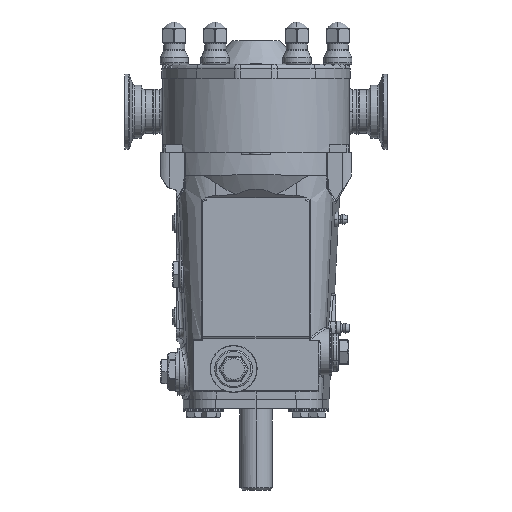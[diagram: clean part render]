
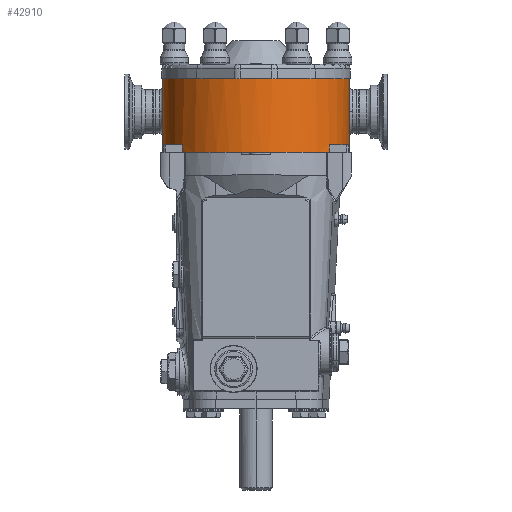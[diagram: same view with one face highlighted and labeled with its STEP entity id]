
A CAD part, front view. The second image highlights one B-rep face of the part: STEP entity #42910.
In plain terms, the highlighted cylindrical face has radius 62.992 mm (diameter 125.984 mm), a partial arc.
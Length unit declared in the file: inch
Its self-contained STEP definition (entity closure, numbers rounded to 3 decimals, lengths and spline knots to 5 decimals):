
#2 = EDGE_CURVE ( 'NONE', #19309, #41263, #8623, .T. ) ;
#88 = AXIS2_PLACEMENT_3D ( 'NONE', #10950, #47807, #16264 ) ;
#725 = CARTESIAN_POINT ( 'NONE',  ( 0., -2.563, 0.075 ) ) ;
#1500 = EDGE_CURVE ( 'NONE', #58362, #52784, #55389, .T. ) ;
#1916 = AXIS2_PLACEMENT_3D ( 'NONE', #53931, #22502, #59286 ) ;
#2109 = CARTESIAN_POINT ( 'NONE',  ( 2.45837, -2.88985, 1.83 ) ) ;
#2254 = CARTESIAN_POINT ( 'NONE',  ( -1.95756, -4.08562, 0.075 ) ) ;
#3062 = CARTESIAN_POINT ( 'NONE',  ( 0., -2.563, -0.125 ) ) ;
#3202 = VERTEX_POINT ( 'NONE', #18373 ) ;
#3344 = LINE ( 'NONE', #53747, #56016 ) ;
#3526 = CIRCLE ( 'NONE', #88, 2.48 ) ;
#4578 = DIRECTION ( 'NONE',  ( 0., 0., 1. ) ) ;
#4593 = CIRCLE ( 'NONE', #1916, 2.48 ) ;
#4833 = EDGE_CURVE ( 'NONE', #41263, #52529, #14712, .T. ) ;
#4900 = DIRECTION ( 'NONE',  ( 0., 0., 1. ) ) ;
#6966 = EDGE_CURVE ( 'NONE', #30237, #21722, #42208, .T. ) ;
#7060 = ORIENTED_EDGE ( 'NONE', *, *, #4833, .T. ) ;
#8246 = CIRCLE ( 'NONE', #11816, 2.48 ) ;
#8575 = ORIENTED_EDGE ( 'NONE', *, *, #16923, .F. ) ;
#8623 = CIRCLE ( 'NONE', #32569, 2.48 ) ;
#8834 = DIRECTION ( 'NONE',  ( 1., 0., 0. ) ) ;
#9141 = VERTEX_POINT ( 'NONE', #18849 ) ;
#9771 = CARTESIAN_POINT ( 'NONE',  ( -1.95756, -4.08562, -0.125 ) ) ;
#10065 = CARTESIAN_POINT ( 'NONE',  ( 2.48, -2.563, 1.83 ) ) ;
#10858 = DIRECTION ( 'NONE',  ( 1., 0., 0. ) ) ;
#10950 = CARTESIAN_POINT ( 'NONE',  ( 0., -2.563, 1.83 ) ) ;
#11555 = VERTEX_POINT ( 'NONE', #26834 ) ;
#11757 = CARTESIAN_POINT ( 'NONE',  ( 0., -2.563, 0.075 ) ) ;
#11816 = AXIS2_PLACEMENT_3D ( 'NONE', #48270, #16773, #53549 ) ;
#12211 = AXIS2_PLACEMENT_3D ( 'NONE', #36454, #4900, #41710 ) ;
#12489 = CIRCLE ( 'NONE', #12211, 2.48 ) ;
#12816 = CIRCLE ( 'NONE', #58685, 2.48 ) ;
#13597 = EDGE_LOOP ( 'NONE', ( #54106, #24644, #21020, #28681, #21406, #48070, #29557, #7060, #61154, #20737, #47843, #8575, #32931, #46569, #57625, #61684 ) ) ;
#14712 = LINE ( 'NONE', #34158, #39473 ) ;
#15920 = CARTESIAN_POINT ( 'NONE',  ( 2.45837, -2.88985, 0.075 ) ) ;
#16264 = DIRECTION ( 'NONE',  ( 1., 0., 0. ) ) ;
#16773 = DIRECTION ( 'NONE',  ( 0., 0., 1. ) ) ;
#16923 = EDGE_CURVE ( 'NONE', #32671, #11555, #58285, .T. ) ;
#17145 = DIRECTION ( 'NONE',  ( 1., 0., 0. ) ) ;
#17464 = DIRECTION ( 'NONE',  ( -1., 0., 0. ) ) ;
#17580 = VECTOR ( 'NONE', #26985, 39.37008 ) ;
#18006 = CARTESIAN_POINT ( 'NONE',  ( 1.95069, -4.09441, -0.125 ) ) ;
#18373 = CARTESIAN_POINT ( 'NONE',  ( -1.875, -4.1862, -0.125 ) ) ;
#18849 = CARTESIAN_POINT ( 'NONE',  ( -2.48, -2.563, 1.83 ) ) ;
#19309 = VERTEX_POINT ( 'NONE', #20866 ) ;
#19983 = VERTEX_POINT ( 'NONE', #59779 ) ;
#20737 = ORIENTED_EDGE ( 'NONE', *, *, #34668, .T. ) ;
#20866 = CARTESIAN_POINT ( 'NONE',  ( 1.875, -4.1862, -0.125 ) ) ;
#21020 = ORIENTED_EDGE ( 'NONE', *, *, #30093, .T. ) ;
#21346 = FACE_OUTER_BOUND ( 'NONE', #13597, .T. ) ;
#21406 = ORIENTED_EDGE ( 'NONE', *, *, #67764, .T. ) ;
#21722 = VERTEX_POINT ( 'NONE', #48659 ) ;
#21832 = EDGE_CURVE ( 'NONE', #3202, #19983, #12816, .T. ) ;
#22164 = CARTESIAN_POINT ( 'NONE',  ( 0., -2.563, -0.125 ) ) ;
#22502 = DIRECTION ( 'NONE',  ( 0., 0., 1. ) ) ;
#23099 = DIRECTION ( 'NONE',  ( 0., 0., -1. ) ) ;
#24644 = ORIENTED_EDGE ( 'NONE', *, *, #42633, .T. ) ;
#26571 = CARTESIAN_POINT ( 'NONE',  ( 0.375, -5.01448, -0.125 ) ) ;
#26834 = CARTESIAN_POINT ( 'NONE',  ( 2.48, -2.563, -0.125 ) ) ;
#26985 = DIRECTION ( 'NONE',  ( 0., 0., -1. ) ) ;
#27443 = DIRECTION ( 'NONE',  ( 1., 0., 0. ) ) ;
#28681 = ORIENTED_EDGE ( 'NONE', *, *, #21832, .T. ) ;
#29233 = DIRECTION ( 'NONE',  ( 0., 0., 1. ) ) ;
#29493 = DIRECTION ( 'NONE',  ( -1., 0., 0. ) ) ;
#29557 = ORIENTED_EDGE ( 'NONE', *, *, #2, .T. ) ;
#30093 = EDGE_CURVE ( 'NONE', #35401, #3202, #8246, .T. ) ;
#30237 = VERTEX_POINT ( 'NONE', #2254 ) ;
#30378 = CYLINDRICAL_SURFACE ( 'NONE', #46069, 2.48 ) ;
#31263 = LINE ( 'NONE', #36185, #60856 ) ;
#32569 = AXIS2_PLACEMENT_3D ( 'NONE', #3062, #63357, #60839 ) ;
#32573 = CARTESIAN_POINT ( 'NONE',  ( 0., -2.563, -0.125 ) ) ;
#32671 = VERTEX_POINT ( 'NONE', #10065 ) ;
#32931 = ORIENTED_EDGE ( 'NONE', *, *, #62368, .F. ) ;
#33317 = EDGE_CURVE ( 'NONE', #36498, #11555, #4593, .T. ) ;
#34158 = CARTESIAN_POINT ( 'NONE',  ( 1.95069, -4.09441, 1.83 ) ) ;
#34668 = EDGE_CURVE ( 'NONE', #46806, #36498, #42285, .T. ) ;
#35401 = VERTEX_POINT ( 'NONE', #9771 ) ;
#36185 = CARTESIAN_POINT ( 'NONE',  ( -1.95756, -4.08562, 1.83 ) ) ;
#36454 = CARTESIAN_POINT ( 'NONE',  ( 0., -2.563, -0.125 ) ) ;
#36498 = VERTEX_POINT ( 'NONE', #40956 ) ;
#38413 = EDGE_CURVE ( 'NONE', #9141, #58362, #57899, .T. ) ;
#39473 = VECTOR ( 'NONE', #29233, 39.37008 ) ;
#40500 = DIRECTION ( 'NONE',  ( 0., 0., -1. ) ) ;
#40956 = CARTESIAN_POINT ( 'NONE',  ( 2.45837, -2.88985, -0.125 ) ) ;
#41263 = VERTEX_POINT ( 'NONE', #18006 ) ;
#41316 = AXIS2_PLACEMENT_3D ( 'NONE', #725, #40500, #29493 ) ;
#41710 = DIRECTION ( 'NONE',  ( 1., 0., 0. ) ) ;
#41735 = CARTESIAN_POINT ( 'NONE',  ( 1.95069, -4.09441, 0.075 ) ) ;
#41759 = AXIS2_PLACEMENT_3D ( 'NONE', #11757, #48620, #17145 ) ;
#42208 = CIRCLE ( 'NONE', #41316, 2.48 ) ;
#42285 = LINE ( 'NONE', #2109, #45568 ) ;
#42633 = EDGE_CURVE ( 'NONE', #30237, #35401, #31263, .T. ) ;
#42910 = ADVANCED_FACE ( 'NONE', ( #21346 ), #30378, .T. ) ;
#43900 = DIRECTION ( 'NONE',  ( 0., 0., -1. ) ) ;
#44369 = EDGE_CURVE ( 'NONE', #46806, #52529, #64976, .T. ) ;
#44866 = CARTESIAN_POINT ( 'NONE',  ( -2.45837, -2.88985, -0.125 ) ) ;
#45217 = VECTOR ( 'NONE', #43900, 39.37008 ) ;
#45568 = VECTOR ( 'NONE', #23099, 39.37008 ) ;
#46069 = AXIS2_PLACEMENT_3D ( 'NONE', #54235, #59572, #17464 ) ;
#46569 = ORIENTED_EDGE ( 'NONE', *, *, #38413, .T. ) ;
#46806 = VERTEX_POINT ( 'NONE', #15920 ) ;
#46906 = CARTESIAN_POINT ( 'NONE',  ( 0., -2.563, -0.125 ) ) ;
#47214 = DIRECTION ( 'NONE',  ( 0., 0., 1. ) ) ;
#47807 = DIRECTION ( 'NONE',  ( 0., 0., 1. ) ) ;
#47843 = ORIENTED_EDGE ( 'NONE', *, *, #33317, .T. ) ;
#48070 = ORIENTED_EDGE ( 'NONE', *, *, #67900, .T. ) ;
#48270 = CARTESIAN_POINT ( 'NONE',  ( 0., -2.563, -0.125 ) ) ;
#48620 = DIRECTION ( 'NONE',  ( 0., 0., -1. ) ) ;
#48659 = CARTESIAN_POINT ( 'NONE',  ( -2.45837, -2.88985, 0.075 ) ) ;
#50660 = EDGE_CURVE ( 'NONE', #52784, #21722, #3344, .T. ) ;
#51880 = CARTESIAN_POINT ( 'NONE',  ( -2.48, -2.563, -0.125 ) ) ;
#52529 = VERTEX_POINT ( 'NONE', #41735 ) ;
#52784 = VERTEX_POINT ( 'NONE', #44866 ) ;
#53549 = DIRECTION ( 'NONE',  ( 1., 0., 0. ) ) ;
#53747 = CARTESIAN_POINT ( 'NONE',  ( -2.45837, -2.88985, 1.83 ) ) ;
#53931 = CARTESIAN_POINT ( 'NONE',  ( 0., -2.563, -0.125 ) ) ;
#54106 = ORIENTED_EDGE ( 'NONE', *, *, #6966, .F. ) ;
#54235 = CARTESIAN_POINT ( 'NONE',  ( 0., -2.563, 1.83 ) ) ;
#55389 = CIRCLE ( 'NONE', #68427, 2.48 ) ;
#56016 = VECTOR ( 'NONE', #59086, 39.37008 ) ;
#57625 = ORIENTED_EDGE ( 'NONE', *, *, #1500, .T. ) ;
#57899 = LINE ( 'NONE', #58442, #17580 ) ;
#58285 = LINE ( 'NONE', #59584, #45217 ) ;
#58362 = VERTEX_POINT ( 'NONE', #51880 ) ;
#58442 = CARTESIAN_POINT ( 'NONE',  ( -2.48, -2.563, 1.83 ) ) ;
#58663 = CIRCLE ( 'NONE', #65254, 2.48 ) ;
#58685 = AXIS2_PLACEMENT_3D ( 'NONE', #32573, #4578, #10858 ) ;
#58931 = DIRECTION ( 'NONE',  ( 0., 0., 1. ) ) ;
#59086 = DIRECTION ( 'NONE',  ( 0., 0., 1. ) ) ;
#59286 = DIRECTION ( 'NONE',  ( 1., 0., 0. ) ) ;
#59572 = DIRECTION ( 'NONE',  ( 0., 0., -1. ) ) ;
#59584 = CARTESIAN_POINT ( 'NONE',  ( 2.48, -2.563, 1.83 ) ) ;
#59779 = CARTESIAN_POINT ( 'NONE',  ( -0.375, -5.01448, -0.125 ) ) ;
#60839 = DIRECTION ( 'NONE',  ( 1., 0., 0. ) ) ;
#60856 = VECTOR ( 'NONE', #62181, 39.37008 ) ;
#61154 = ORIENTED_EDGE ( 'NONE', *, *, #44369, .F. ) ;
#61684 = ORIENTED_EDGE ( 'NONE', *, *, #50660, .T. ) ;
#62181 = DIRECTION ( 'NONE',  ( 0., 0., -1. ) ) ;
#62368 = EDGE_CURVE ( 'NONE', #9141, #32671, #3526, .T. ) ;
#63357 = DIRECTION ( 'NONE',  ( 0., 0., 1. ) ) ;
#64976 = CIRCLE ( 'NONE', #41759, 2.48 ) ;
#65254 = AXIS2_PLACEMENT_3D ( 'NONE', #22164, #58931, #27443 ) ;
#66289 = VERTEX_POINT ( 'NONE', #26571 ) ;
#67764 = EDGE_CURVE ( 'NONE', #19983, #66289, #12489, .T. ) ;
#67900 = EDGE_CURVE ( 'NONE', #66289, #19309, #58663, .T. ) ;
#68427 = AXIS2_PLACEMENT_3D ( 'NONE', #46906, #47214, #8834 ) ;
